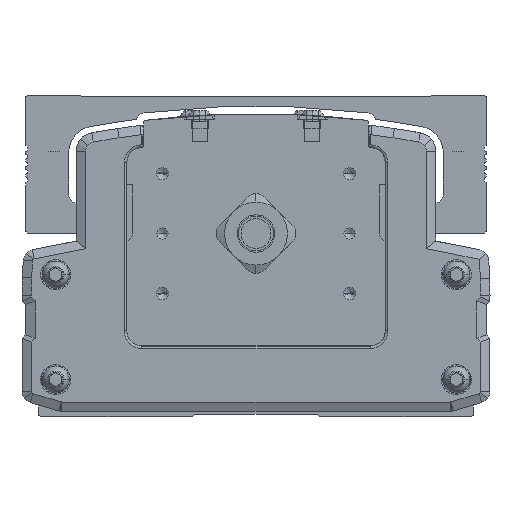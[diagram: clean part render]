
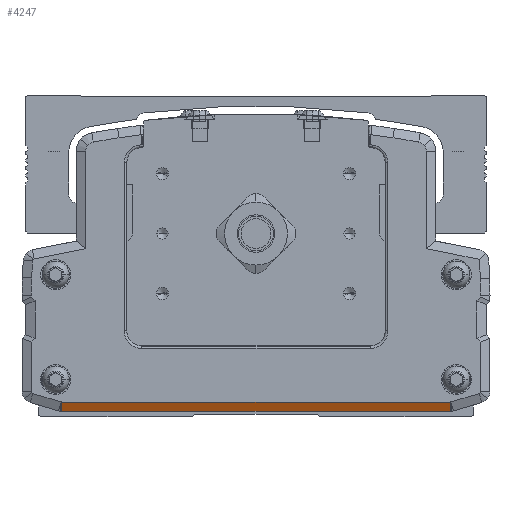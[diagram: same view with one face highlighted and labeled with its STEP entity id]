
A CAD part, front view. The second image highlights one B-rep face of the part: STEP entity #4247.
In plain terms, the highlighted planar face has unit normal (0, -0.894, -0.447).
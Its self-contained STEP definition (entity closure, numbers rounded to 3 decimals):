
#4247=ADVANCED_FACE('',(#9440),#9441,.T.);
#9440=FACE_OUTER_BOUND('',#16418,.T.);
#9441=PLANE('',#16419);
#16418=EDGE_LOOP('',(#29342,#29343,#29344,#29345));
#16419=AXIS2_PLACEMENT_3D('',#29346,#29347,#29348);
#29342=ORIENTED_EDGE('',*,*,#41943,.T.);
#29343=ORIENTED_EDGE('',*,*,#42909,.T.);
#29344=ORIENTED_EDGE('',*,*,#38427,.F.);
#29345=ORIENTED_EDGE('',*,*,#42910,.T.);
#29346=CARTESIAN_POINT('',(-300.01,-485.153,-46.25));
#29347=DIRECTION('',(0.,-0.894,-0.447));
#29348=DIRECTION('',(-1.0,0.,0.));
#38427=EDGE_CURVE('',#45943,#45945,#45946,.T.);
#41943=EDGE_CURVE('',#51651,#51649,#51652,.T.);
#42909=EDGE_CURVE('',#51649,#45945,#53010,.T.);
#42910=EDGE_CURVE('',#45943,#51651,#53011,.T.);
#45943=VERTEX_POINT('',#56794);
#45945=VERTEX_POINT('',#56796);
#45946=LINE('',#56797,#56798);
#51649=VERTEX_POINT('',#65042);
#51651=VERTEX_POINT('',#65044);
#51652=LINE('',#65045,#65046);
#53010=LINE('',#67042,#67043);
#53011=LINE('',#67044,#67045);
#56794=CARTESIAN_POINT('',(-248.132,-485.778,-45.));
#56796=CARTESIAN_POINT('',(-248.132,-484.528,-47.5));
#56797=CARTESIAN_POINT('',(-248.132,-485.778,-45.));
#56798=VECTOR('',#71458,10.);
#65042=CARTESIAN_POINT('',(-351.868,-484.528,-47.5));
#65044=CARTESIAN_POINT('',(-351.868,-485.778,-45.));
#65045=CARTESIAN_POINT('',(-351.868,-485.778,-45.));
#65046=VECTOR('',#75832,10.0);
#67042=CARTESIAN_POINT('',(-300.01,-484.528,-47.5));
#67043=VECTOR('',#77116,10.0);
#67044=CARTESIAN_POINT('',(-300.01,-485.778,-45.));
#67045=VECTOR('',#77117,10.0);
#71458=DIRECTION('',(0.,0.447,-0.894));
#75832=DIRECTION('',(0.,0.447,-0.894));
#77116=DIRECTION('',(1.0,0.,0.));
#77117=DIRECTION('',(-1.0,0.,0.));
